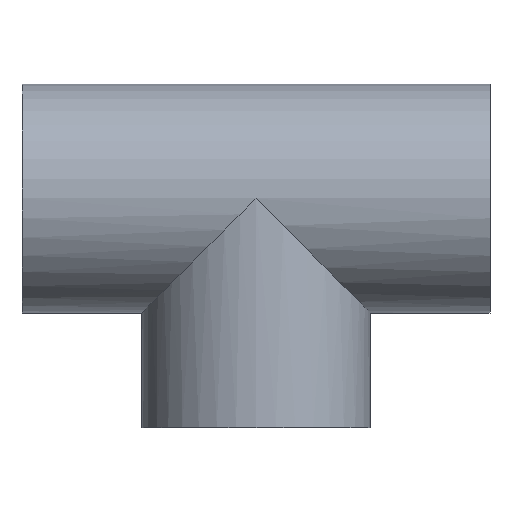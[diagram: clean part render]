
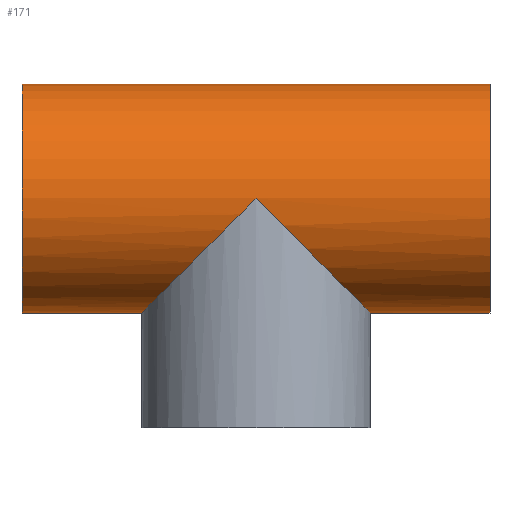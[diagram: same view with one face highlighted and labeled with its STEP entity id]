
A CAD part, top view. The second image highlights one B-rep face of the part: STEP entity #171.
In plain terms, the highlighted cylindrical face has radius 11.5 mm (diameter 23 mm), a full revolution.
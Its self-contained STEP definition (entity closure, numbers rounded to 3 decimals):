
#17=ELLIPSE('',#199,16.263,11.5);
#18=ELLIPSE('',#200,16.263,11.5);
#32=FACE_BOUND('',#68,.T.);
#33=FACE_BOUND('',#69,.T.);
#47=FACE_OUTER_BOUND('',#67,.T.);
#67=EDGE_LOOP('',(#140));
#68=EDGE_LOOP('',(#141,#142));
#69=EDGE_LOOP('',(#143));
#90=CIRCLE('',#198,11.5);
#91=CIRCLE('',#201,11.5);
#104=VERTEX_POINT('',#299);
#105=VERTEX_POINT('',#301);
#106=VERTEX_POINT('',#302);
#107=VERTEX_POINT('',#305);
#120=EDGE_CURVE('',#104,#104,#90,.T.);
#121=EDGE_CURVE('',#105,#106,#17,.T.);
#122=EDGE_CURVE('',#106,#105,#18,.T.);
#123=EDGE_CURVE('',#107,#107,#91,.T.);
#140=ORIENTED_EDGE('',*,*,#120,.F.);
#141=ORIENTED_EDGE('',*,*,#121,.T.);
#142=ORIENTED_EDGE('',*,*,#122,.T.);
#143=ORIENTED_EDGE('',*,*,#123,.F.);
#161=CYLINDRICAL_SURFACE('',#197,11.5);
#171=ADVANCED_FACE('',(#47,#32,#33),#161,.T.);
#197=AXIS2_PLACEMENT_3D('',#298,#246,#247);
#198=AXIS2_PLACEMENT_3D('',#300,#248,#249);
#199=AXIS2_PLACEMENT_3D('',#303,#250,#251);
#200=AXIS2_PLACEMENT_3D('',#304,#252,#253);
#201=AXIS2_PLACEMENT_3D('',#306,#254,#255);
#246=DIRECTION('center_axis',(1.,0.,0.));
#247=DIRECTION('ref_axis',(0.,-1.,0.));
#248=DIRECTION('center_axis',(-1.,0.,0.));
#249=DIRECTION('ref_axis',(0.,-1.,0.));
#250=DIRECTION('center_axis',(-0.707,0.707,0.));
#251=DIRECTION('ref_axis',(-0.707,-0.707,0.));
#252=DIRECTION('center_axis',(0.707,0.707,0.));
#253=DIRECTION('ref_axis',(-0.707,0.707,0.));
#254=DIRECTION('center_axis',(1.,0.,0.));
#255=DIRECTION('ref_axis',(0.,-1.,0.));
#298=CARTESIAN_POINT('Origin',(0.,0.,0.));
#299=CARTESIAN_POINT('',(-23.5,11.5,0.));
#300=CARTESIAN_POINT('Origin',(-23.5,0.,0.));
#301=CARTESIAN_POINT('',(0.,0.,-11.5));
#302=CARTESIAN_POINT('',(0.,0.,11.5));
#303=CARTESIAN_POINT('Origin',(0.,0.,0.));
#304=CARTESIAN_POINT('Origin',(0.,0.,0.));
#305=CARTESIAN_POINT('',(23.5,11.5,0.));
#306=CARTESIAN_POINT('Origin',(23.5,0.,0.));
